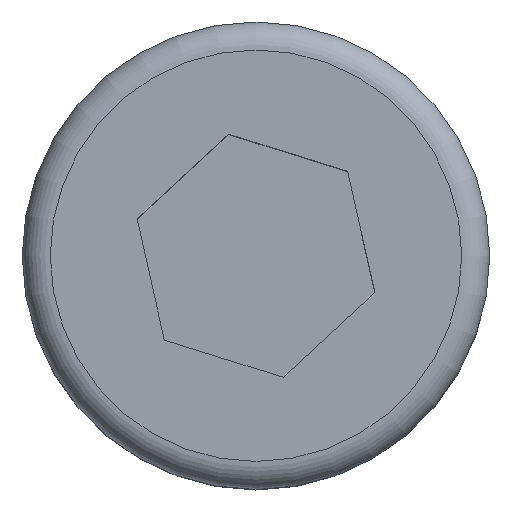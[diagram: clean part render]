
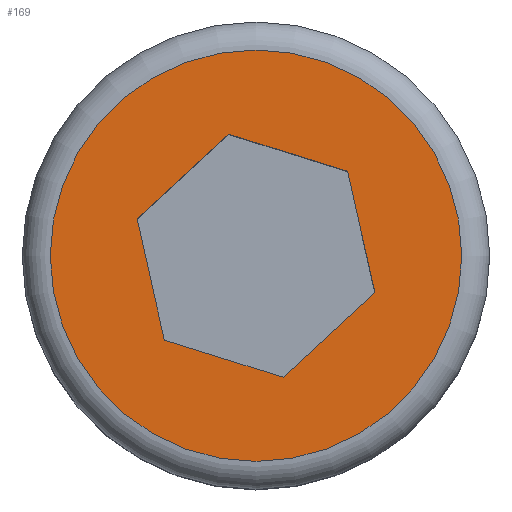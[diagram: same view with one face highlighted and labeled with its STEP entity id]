
A CAD part, top view. The second image highlights one B-rep face of the part: STEP entity #169.
In plain terms, the highlighted planar face has unit normal (0, 0, 1).
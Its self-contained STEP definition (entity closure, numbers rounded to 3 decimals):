
#74=PLANE('',#585);
#92=LINE('',#821,#130);
#93=LINE('',#824,#131);
#94=LINE('',#826,#132);
#95=LINE('',#828,#133);
#96=LINE('',#830,#134);
#97=LINE('',#832,#135);
#130=VECTOR('',#655,1.);
#131=VECTOR('',#656,1.);
#132=VECTOR('',#657,1.);
#133=VECTOR('',#658,1.);
#134=VECTOR('',#659,1.);
#135=VECTOR('',#660,1.);
#169=ADVANCED_FACE('',(#218,#219),#74,.T.);
#218=FACE_BOUND('',#248,.T.);
#219=FACE_BOUND('',#249,.T.);
#248=EDGE_LOOP('',(#298));
#249=EDGE_LOOP('',(#299,#300,#301,#302,#303,#304));
#298=ORIENTED_EDGE('',*,*,#484,.T.);
#299=ORIENTED_EDGE('',*,*,#485,.F.);
#300=ORIENTED_EDGE('',*,*,#486,.T.);
#301=ORIENTED_EDGE('',*,*,#487,.T.);
#302=ORIENTED_EDGE('',*,*,#488,.T.);
#303=ORIENTED_EDGE('',*,*,#489,.T.);
#304=ORIENTED_EDGE('',*,*,#490,.F.);
#434=VERTEX_POINT('',#820);
#435=VERTEX_POINT('',#822);
#436=VERTEX_POINT('',#823);
#437=VERTEX_POINT('',#825);
#438=VERTEX_POINT('',#827);
#439=VERTEX_POINT('',#829);
#440=VERTEX_POINT('',#831);
#484=EDGE_CURVE('',#434,#434,#552,.T.);
#485=EDGE_CURVE('',#435,#436,#92,.T.);
#486=EDGE_CURVE('',#435,#437,#93,.T.);
#487=EDGE_CURVE('',#437,#438,#94,.T.);
#488=EDGE_CURVE('',#438,#439,#95,.T.);
#489=EDGE_CURVE('',#439,#440,#96,.T.);
#490=EDGE_CURVE('',#436,#440,#97,.T.);
#552=CIRCLE('',#584,5.72);
#584=AXIS2_PLACEMENT_3D('',#819,#653,#654);
#585=AXIS2_PLACEMENT_3D('',#833,#661,#662);
#653=DIRECTION('',(0.,0.,1.));
#654=DIRECTION('',(1.,0.,0.));
#655=DIRECTION('',(0.955,-0.298,0.));
#656=DIRECTION('',(-0.219,0.976,0.));
#657=DIRECTION('',(0.735,0.678,0.));
#658=DIRECTION('',(0.955,-0.298,0.));
#659=DIRECTION('',(0.219,-0.976,0.));
#660=DIRECTION('',(0.735,0.678,0.));
#661=DIRECTION('',(0.,0.,1.));
#662=DIRECTION('',(1.,0.,0.));
#819=CARTESIAN_POINT('',(0.,0.,8.));
#820=CARTESIAN_POINT('',(5.72,0.,8.));
#821=CARTESIAN_POINT('',(-2.548,-2.347,8.));
#822=CARTESIAN_POINT('',(-2.548,-2.347,8.));
#823=CARTESIAN_POINT('',(0.759,-3.38,8.));
#824=CARTESIAN_POINT('',(-2.548,-2.347,8.));
#825=CARTESIAN_POINT('',(-3.307,1.033,8.));
#826=CARTESIAN_POINT('',(-3.307,1.033,8.));
#827=CARTESIAN_POINT('',(-0.759,3.38,8.));
#828=CARTESIAN_POINT('',(-0.759,3.38,8.));
#829=CARTESIAN_POINT('',(2.548,2.347,8.));
#830=CARTESIAN_POINT('',(2.548,2.347,8.));
#831=CARTESIAN_POINT('',(3.307,-1.033,8.));
#832=CARTESIAN_POINT('',(0.759,-3.38,8.));
#833=CARTESIAN_POINT('',(0.,0.,8.));
